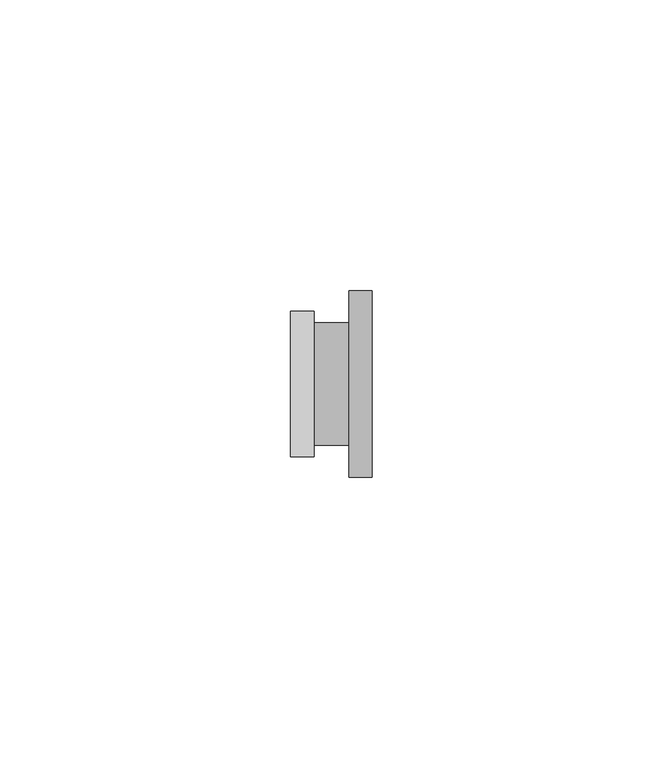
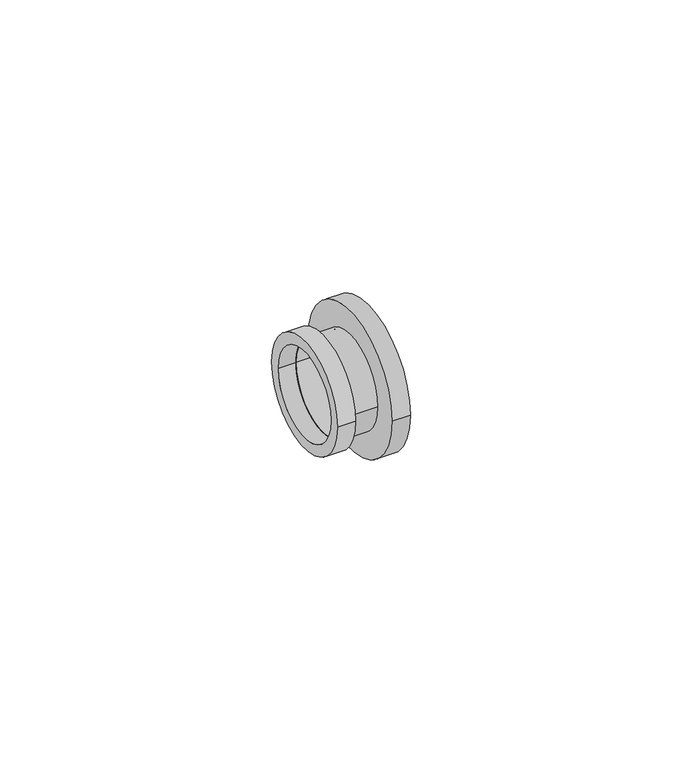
"""IFC4 building model written with IfcOpenShell, lengths in millimetres: pipe fitting geometry, БИР ПЕКС_НПР_Соединитель_Резьба_Внутренняя : Соединитель прямой с внутренней резьбой."""

from ifc_helpers import new_model, si_unit, point, frame, origin, origin_2d, place, context, project, spatial, circle_curve, trimmed, segment, composite_curve, outline, extrude, source, transform, mapped, element, save


def pipe_fitting_1f87d155(model_context):
    return source(origin(), model_context, "Body", "SweptSolid", [
        extrude(outline(composite_curve([segment(trimmed(circle_curve(origin_2d(), 10.5), [point((-10.5, 0.0))], [point((10.5, 0.0))], False, "CARTESIAN"), True, "CONTINUOUS"), segment(trimmed(circle_curve(origin_2d(), 10.5), [point((10.5, 0.0))], [point((-10.5, 0.0))], False, "CARTESIAN"), True, "CONTINUOUS")], self_intersect=False), holes=[composite_curve([segment(trimmed(circle_curve(origin_2d(), 10.0), [point((-10.0, 0.0))], [point((10.0, 0.0))], True, "CARTESIAN"), True, "CONTINUOUS"), segment(trimmed(circle_curve(origin_2d(), 10.0), [point((10.0, 0.0))], [point((-10.0, 0.0))], True, "CARTESIAN"), True, "CONTINUOUS")], self_intersect=False)]), frame((-3.0, 0.0, 0.0), z_axis=(1.0, 0.0, 0.0), x_axis=(0.0, 1.0, 0.0)), (0.0, 0.0, 1.0), 6.0),
        extrude(outline(composite_curve([segment(trimmed(circle_curve(origin_2d(), 16.0), [point((-16.0, 0.0))], [point((16.0, 0.0))], False, "CARTESIAN"), True, "CONTINUOUS"), segment(trimmed(circle_curve(origin_2d(), 16.0), [point((16.0, 0.0))], [point((-16.0, 0.0))], False, "CARTESIAN"), True, "CONTINUOUS")], self_intersect=False), holes=[composite_curve([segment(trimmed(circle_curve(origin_2d(), 10.0), [point((-10.0, 0.0))], [point((10.0, 0.0))], True, "CARTESIAN"), True, "CONTINUOUS"), segment(trimmed(circle_curve(origin_2d(), 10.0), [point((10.0, 0.0))], [point((-10.0, 0.0))], True, "CARTESIAN"), True, "CONTINUOUS")], self_intersect=False)]), frame((3.0, 0.0, 0.0), z_axis=(1.0, 0.0, 0.0), x_axis=(0.0, 1.0, 0.0)), (0.0, 0.0, 1.0), 4.0),
        extrude(outline(composite_curve([segment(trimmed(circle_curve(origin_2d(), 12.5), [point((-12.5, 0.0))], [point((12.5, 0.0))], False, "CARTESIAN"), True, "CONTINUOUS"), segment(trimmed(circle_curve(origin_2d(), 12.5), [point((12.5, 0.0))], [point((-12.5, 0.0))], False, "CARTESIAN"), True, "CONTINUOUS")], self_intersect=False), holes=[composite_curve([segment(trimmed(circle_curve(origin_2d(), 10.0), [point((-10.0, 0.0))], [point((10.0, 0.0))], True, "CARTESIAN"), True, "CONTINUOUS"), segment(trimmed(circle_curve(origin_2d(), 10.0), [point((10.0, 0.0))], [point((-10.0, 0.0))], True, "CARTESIAN"), True, "CONTINUOUS")], self_intersect=False)]), frame((-7.0, 0.0, 0.0), z_axis=(1.0, 0.0, 0.0), x_axis=(0.0, 1.0, 0.0)), (0.0, 0.0, 1.0), 4.0),
    ])


if __name__ == "__main__":
    model = new_model("IFC4")
    model_context = context("Model", 3, world=origin())
    ifc_project = project(units=[si_unit("LENGTHUNIT", "METRE", prefix="MILLI")], contexts=[model_context])
    site = spatial("IfcSite", under=ifc_project)
    building = spatial("IfcBuilding", under=site)
    placement = place(None, origin())
    pipe_fitting_shape = pipe_fitting_1f87d155(model_context)
    element("IfcPipeFitting", 1, ObjectType="БИР ПЕКС_НПР_Соединитель_Резьба_Внутренняя : Соединитель прямой с внутренней резьбой", at=placement, inside=building, context=model_context, shape_type="MappedRepresentation", body=[
        mapped(pipe_fitting_shape, transform((0.0, 0.0, 0.0), x_axis=(1.0, 0.0, 0.0), y_axis=(0.0, 1.0, 0.0), z_axis=(0.0, 0.0, 1.0))),
    ])
    save(model, "model.ifc")
